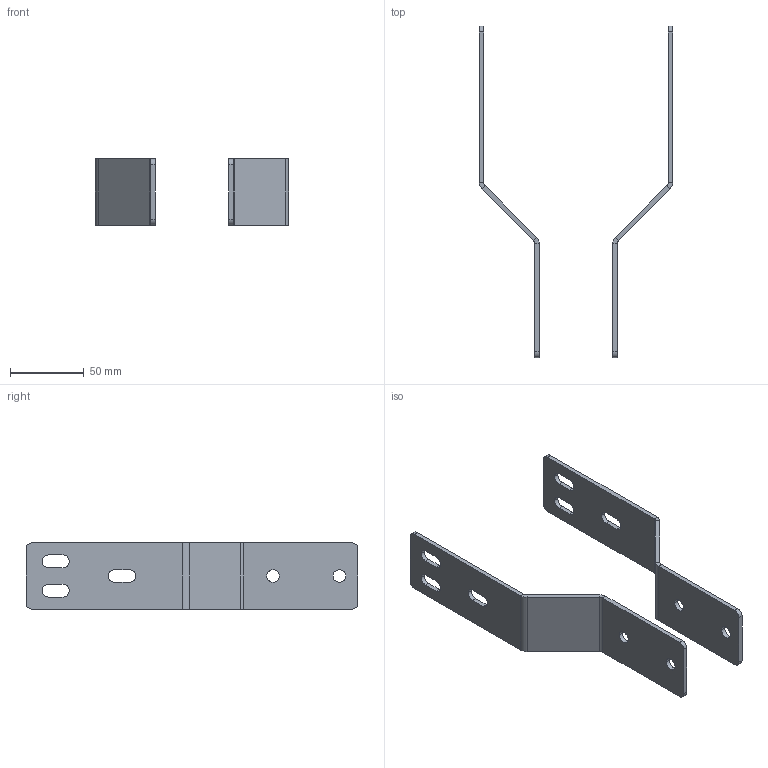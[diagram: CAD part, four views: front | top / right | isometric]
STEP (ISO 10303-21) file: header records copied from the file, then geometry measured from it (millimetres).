
FILE_DESCRIPTION (( 'STEP AP203' ), '1' );
FILE_NAME ('2000.450.620.STEP', '2018-03-12T08:22:20', ( '' ), ( '' ), 'SwSTEP 2.0', 'SolidWorks 2016', '' );
FILE_SCHEMA (( 'CONFIG_CONTROL_DESIGN' ));
Length unit declared in the file: millimetre
Products named in the file (2): 2000.450.620L; 2000.450.620
Assembly tree (2 placements, depth 2):
  2000.450.620
    2000.450.620L  x2
Bounding box: 131 x 225 x 45 mm (x, y, z)
Volume: 61524.6 mm3; surface area: 45558 mm2
Topology: 2 solids, 2 shells, 90 faces, 226 edges, 140 vertices
Faces by surface type: plane 48, cylinder 42
Entity records: 1589 total; most frequent: DIRECTION 255, CARTESIAN_POINT 233, ORIENTED_EDGE 226, EDGE_CURVE 113, AXIS2_PLACEMENT_3D 92, VECTOR 71, LINE 71, VERTEX_POINT 70
